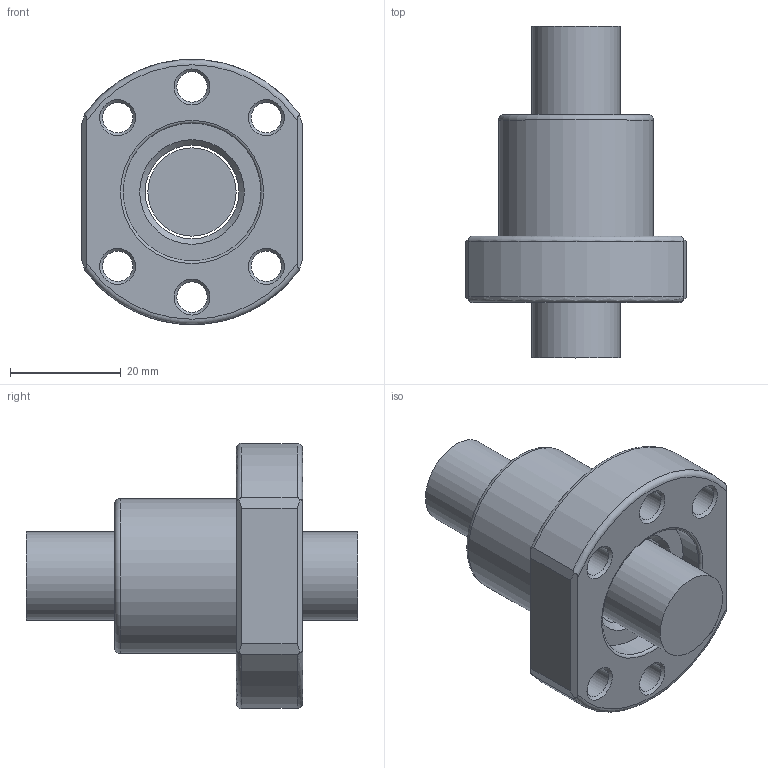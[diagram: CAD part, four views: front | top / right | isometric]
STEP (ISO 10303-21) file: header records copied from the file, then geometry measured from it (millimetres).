
FILE_DESCRIPTION(/* description */ (''),/* implementation_level */ '2;1');
FILE_NAME(/* name */ '1605.prt.step',/* time_stamp */ '2008-12-05T09:29:59+08:00',/* author */ (''),/* organization */ (''),/* preprocessor_version */ 'ST-DEVELOPER v11',/* originating_system */ 'SIEMENS UGS NX 6.0',/* authorisation */ '');
FILE_SCHEMA (('AUTOMOTIVE_DESIGN { 1 0 10303 214 1 1 1 1 }'));
Length unit declared in the file: millimetre
Products named in the file (1): 1605
Bounding box: 40 x 60 x 47.93 mm (x, y, z)
Volume: 33581.7 mm3; surface area: 12649.6 mm2
Topology: 2 solids, 2 shells, 51 faces, 118 edges, 74 vertices
Faces by surface type: plane 17, cone 14, cylinder 13, torus 7
Full cylindrical faces by diameter (mm): 5.5 x6, 15.95 x1, 16.9 x1, 24.9 x2, 28 x1
Entity records: 1546 total; most frequent: CARTESIAN_POINT 450, DIRECTION 222, ORIENTED_EDGE 174, AXIS2_PLACEMENT_3D 99, EDGE_LOOP 96, EDGE_CURVE 87, FACE_BOUND 78, VERTEX_POINT 71
